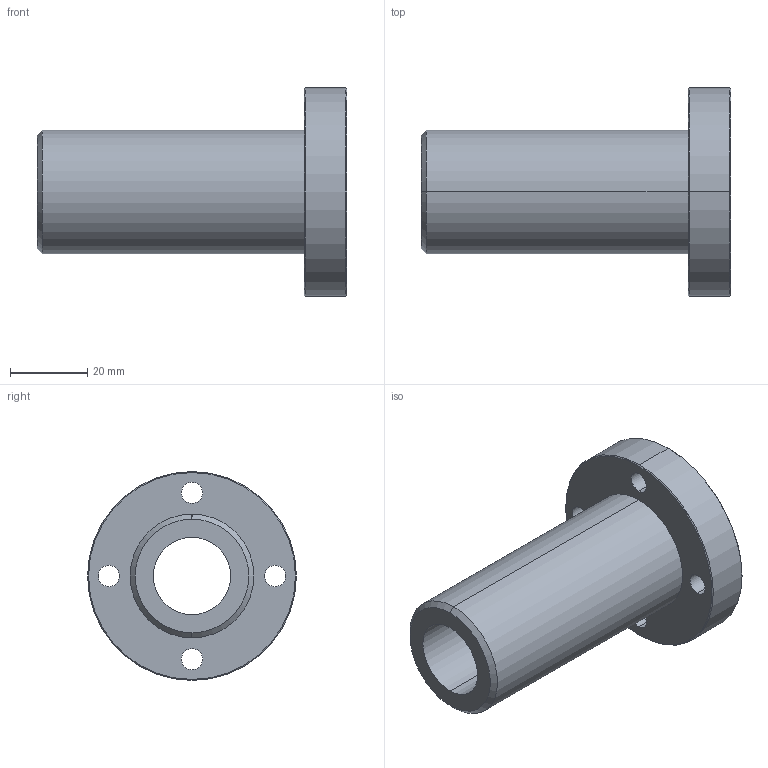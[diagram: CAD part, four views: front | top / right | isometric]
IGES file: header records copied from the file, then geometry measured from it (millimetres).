
Start section: 3D InterOp IGES (Version 21 0 1), Spatial Corp. Copyright (c) 1999-2007.
Global section: file name: DFPJR20.igs; native system: Spatial Corp.; preprocessor: 3D InterOp GENERIC/IGES 3.0; author: Noname; organization: Noname; date: 20220324.143806; units: millimetre
Bounding box: 80 x 54 x 54 mm (x, y, z)
Surface area: 18446.5 mm2 (no closed solid volume)
Topology: 0 solids, 0 shells, 35 faces, 156 edges, 156 vertices
Faces by surface type: revolution 28, extrusion 7
